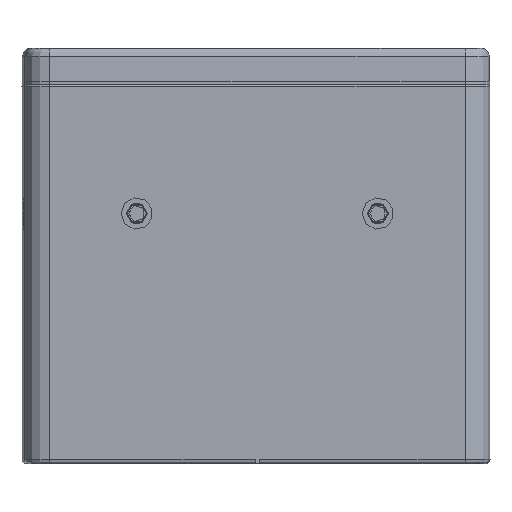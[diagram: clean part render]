
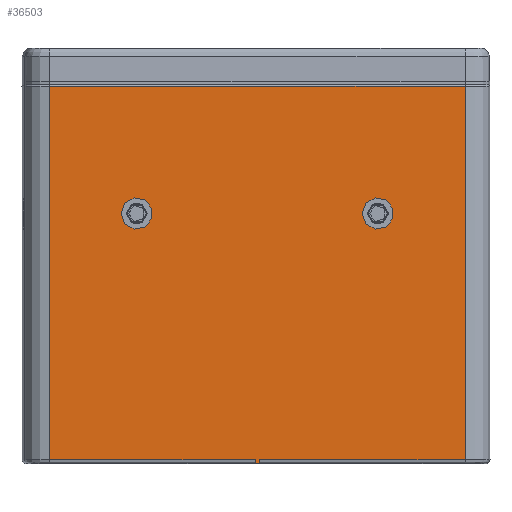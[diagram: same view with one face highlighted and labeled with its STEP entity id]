
A CAD part, front view. The second image highlights one B-rep face of the part: STEP entity #36503.
In plain terms, the highlighted planar face has unit normal (0.005, -1, 0).
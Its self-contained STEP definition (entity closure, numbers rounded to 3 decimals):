
#1070=LINE('',#52510,#3760);
#1071=LINE('',#52516,#3761);
#1073=LINE('',#52520,#3763);
#1076=LINE('',#52529,#3766);
#3303=LINE('',#75187,#5993);
#3433=LINE('',#76195,#6123);
#3435=LINE('',#76200,#6125);
#3436=LINE('',#76201,#6126);
#3760=VECTOR('',#40112,10.);
#3761=VECTOR('',#40117,10.);
#3763=VECTOR('',#40121,10.);
#3766=VECTOR('',#40130,10.);
#5993=VECTOR('',#45901,10.);
#6123=VECTOR('',#46815,30.);
#6125=VECTOR('',#46821,10.);
#6126=VECTOR('',#46822,10.);
#7936=FACE_BOUND('',#11737,.T.);
#7937=FACE_BOUND('',#11738,.T.);
#9607=FACE_OUTER_BOUND('',#11736,.T.);
#11736=EDGE_LOOP('',(#30576,#30577,#30578,#30579,#30580,#30581,#30582,#30583));
#11737=EDGE_LOOP('',(#30584));
#11738=EDGE_LOOP('',(#30585));
#12982=CIRCLE('',#38810,19.);
#12985=CIRCLE('',#38815,19.);
#13556=VERTEX_POINT('',#52506);
#13557=VERTEX_POINT('',#52508);
#13558=VERTEX_POINT('',#52512);
#13560=VERTEX_POINT('',#52515);
#13561=VERTEX_POINT('',#52519);
#13564=VERTEX_POINT('',#52527);
#16353=VERTEX_POINT('',#75042);
#16356=VERTEX_POINT('',#75051);
#16396=VERTEX_POINT('',#75186);
#16615=VERTEX_POINT('',#76194);
#17074=EDGE_CURVE('',#13557,#13556,#1070,.T.);
#17076=EDGE_CURVE('',#13560,#13558,#1071,.T.);
#17078=EDGE_CURVE('',#13556,#13561,#1073,.T.);
#17083=EDGE_CURVE('',#13564,#13558,#1076,.T.);
#21010=EDGE_CURVE('',#16353,#16353,#12982,.T.);
#21014=EDGE_CURVE('',#16356,#16356,#12985,.T.);
#21069=EDGE_CURVE('',#13561,#16396,#3303,.T.);
#21441=EDGE_CURVE('',#16615,#13564,#3433,.T.);
#21444=EDGE_CURVE('',#16396,#16615,#3435,.T.);
#21445=EDGE_CURVE('',#13560,#13557,#3436,.T.);
#30576=ORIENTED_EDGE('',*,*,#17083,.F.);
#30577=ORIENTED_EDGE('',*,*,#21441,.F.);
#30578=ORIENTED_EDGE('',*,*,#21444,.F.);
#30579=ORIENTED_EDGE('',*,*,#21069,.F.);
#30580=ORIENTED_EDGE('',*,*,#17078,.F.);
#30581=ORIENTED_EDGE('',*,*,#17074,.F.);
#30582=ORIENTED_EDGE('',*,*,#21445,.F.);
#30583=ORIENTED_EDGE('',*,*,#17076,.T.);
#30584=ORIENTED_EDGE('',*,*,#21014,.T.);
#30585=ORIENTED_EDGE('',*,*,#21010,.T.);
#32765=PLANE('',#39270);
#36503=ADVANCED_FACE('',(#9607,#7936,#7937),#32765,.T.);
#38810=AXIS2_PLACEMENT_3D('',#75043,#45753,#45754);
#38815=AXIS2_PLACEMENT_3D('',#75052,#45764,#45765);
#39270=AXIS2_PLACEMENT_3D('',#76199,#46819,#46820);
#40112=DIRECTION('',(0.,0.,1.));
#40117=DIRECTION('',(0.,0.,1.));
#40121=DIRECTION('',(-1.,-0.005,0.));
#40130=DIRECTION('',(-1.,-0.005,0.));
#45753=DIRECTION('center_axis',(-0.005,1.,
0.));
#45754=DIRECTION('ref_axis',(1.,0.005,0.));
#45764=DIRECTION('center_axis',(-0.005,1.,
0.));
#45765=DIRECTION('ref_axis',(1.,0.005,0.));
#45901=DIRECTION('',(0.,0.,1.));
#46815=DIRECTION('',(0.,0.,-1.));
#46819=DIRECTION('center_axis',(0.005,-1.,
0.));
#46820=DIRECTION('ref_axis',(1.,0.005,0.));
#46821=DIRECTION('',(1.,0.005,0.));
#46822=DIRECTION('',(-1.,-0.005,0.));
#52506=CARTESIAN_POINT('',(200.627,-37.358,5.431));
#52508=CARTESIAN_POINT('',(200.627,-37.358,0.431));
#52510=CARTESIAN_POINT('',(200.627,-37.358,0.431));
#52512=CARTESIAN_POINT('',(205.627,-37.335,5.431));
#52515=CARTESIAN_POINT('',(205.627,-37.335,0.431));
#52516=CARTESIAN_POINT('',(205.627,-37.335,0.431));
#52519=CARTESIAN_POINT('',(-46.87,-38.485,5.431));
#52520=CARTESIAN_POINT('',(65.628,-37.972,5.431));
#52527=CARTESIAN_POINT('',(453.124,-36.208,5.431));
#52529=CARTESIAN_POINT('',(65.628,-37.972,5.431));
#75042=CARTESIAN_POINT('',(329.126,-36.772,301.549));
#75043=CARTESIAN_POINT('Origin',(348.125,-36.686,301.549));
#75051=CARTESIAN_POINT('',(39.129,-38.093,301.549));
#75052=CARTESIAN_POINT('Origin',(58.128,-38.007,301.549));
#75186=CARTESIAN_POINT('',(-46.87,-38.485,454.431));
#75187=CARTESIAN_POINT('',(-46.87,-38.485,6.431));
#76194=CARTESIAN_POINT('',(453.124,-36.208,454.431));
#76195=CARTESIAN_POINT('',(453.124,-36.208,6.431));
#76199=CARTESIAN_POINT('Origin',(-71.87,-38.599,6.431));
#76200=CARTESIAN_POINT('',(65.628,-37.972,454.431));
#76201=CARTESIAN_POINT('',(205.627,-37.335,0.431));
